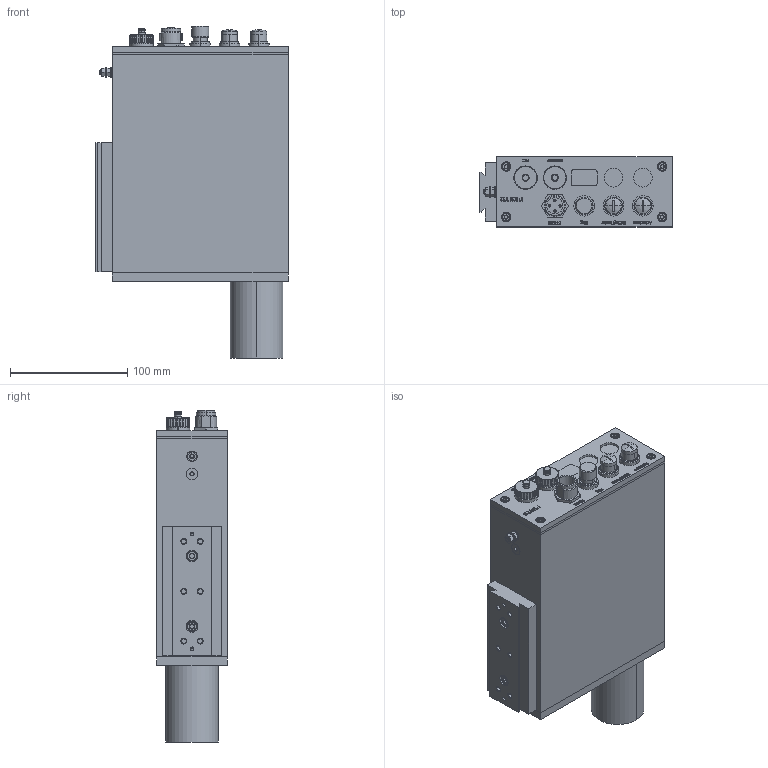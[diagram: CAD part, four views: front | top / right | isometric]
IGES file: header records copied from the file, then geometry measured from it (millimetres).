
Global section: file name: U:/vorübergehend/masn/539076_Checkbox-MAS; native system: SolidDesigner 12.01C  26-Mar-2004; preprocessor: OneSpace IGES_3D V1.1; author: Unknown; organization: Unknown; date: 20041110.152303; units: millimetre
Bounding box: 164 x 60 x 283 mm (x, y, z)
Volume: 708971 mm3; surface area: 329941.7 mm2
Topology: 66 solids, 67 shells, 4140 faces, 9991 edges, 6225 vertices
Faces by surface type: bspline 4140
